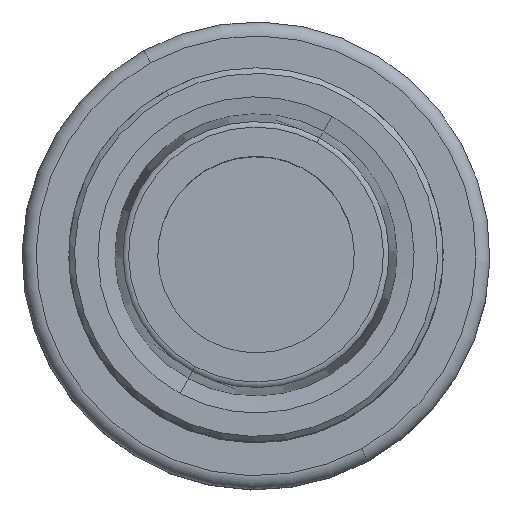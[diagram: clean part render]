
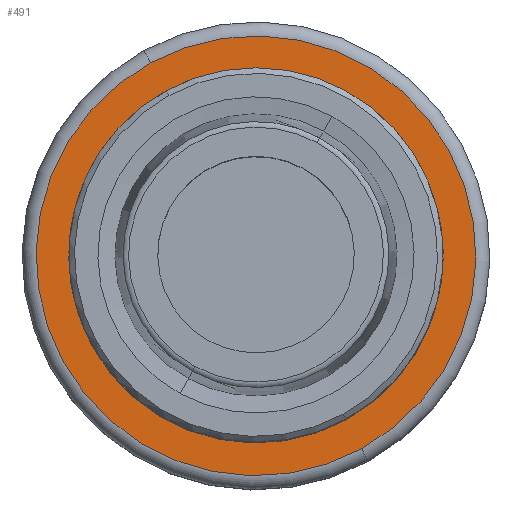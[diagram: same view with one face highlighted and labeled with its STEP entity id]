
A CAD part, top view. The second image highlights one B-rep face of the part: STEP entity #491.
In plain terms, the highlighted planar face has unit normal (0, 0, 1).
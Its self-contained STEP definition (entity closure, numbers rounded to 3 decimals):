
#397=AXIS2_PLACEMENT_3D('Circle Axis2P3D',#395,#396,$) ;
#409=AXIS2_PLACEMENT_3D('Circle Axis2P3D',#407,#408,$) ;
#467=AXIS2_PLACEMENT_3D('Plane Axis2P3D',#464,#465,#466) ;
#471=AXIS2_PLACEMENT_3D('Circle Axis2P3D',#469,#470,$) ;
#480=AXIS2_PLACEMENT_3D('Circle Axis2P3D',#478,#479,$) ;
#385=CARTESIAN_POINT('Vertex',(-9.589,17.552,-57.5)) ;
#392=CARTESIAN_POINT('Vertex',(9.589,-17.552,-57.5)) ;
#395=CARTESIAN_POINT('Axis2P3D Location',(0.,0.,-57.5)) ;
#407=CARTESIAN_POINT('Axis2P3D Location',(0.,0.,-57.5)) ;
#464=CARTESIAN_POINT('Axis2P3D Location',(0.,0.,-57.5)) ;
#469=CARTESIAN_POINT('Axis2P3D Location',(0.,0.,-57.5)) ;
#473=CARTESIAN_POINT('Vertex',(11.267,-20.623,-57.5)) ;
#475=CARTESIAN_POINT('Vertex',(-11.267,20.623,-57.5)) ;
#478=CARTESIAN_POINT('Axis2P3D Location',(0.,0.,-57.5)) ;
#396=DIRECTION('Axis2P3D Direction',(0.,0.,1.)) ;
#408=DIRECTION('Axis2P3D Direction',(0.,0.,1.)) ;
#465=DIRECTION('Axis2P3D Direction',(0.,0.,1.)) ;
#466=DIRECTION('Axis2P3D XDirection',(1.,0.,0.)) ;
#470=DIRECTION('Axis2P3D Direction',(0.,0.,1.)) ;
#479=DIRECTION('Axis2P3D Direction',(0.,0.,1.)) ;
#484=ORIENTED_EDGE('',*,*,#477,.T.) ;
#485=ORIENTED_EDGE('',*,*,#482,.T.) ;
#488=ORIENTED_EDGE('',*,*,#399,.F.) ;
#489=ORIENTED_EDGE('',*,*,#411,.F.) ;
#490=FACE_BOUND('',#487,.T.) ;
#491=ADVANCED_FACE('NOCUT',(#486,#490),#468,.T.) ;
#398=CIRCLE('generated circle',#397,20.) ;
#410=CIRCLE('generated circle',#409,20.) ;
#472=CIRCLE('generated circle',#471,23.5) ;
#481=CIRCLE('generated circle',#480,23.5) ;
#399=EDGE_CURVE('',#393,#386,#398,.T.) ;
#411=EDGE_CURVE('',#386,#393,#410,.T.) ;
#477=EDGE_CURVE('',#474,#476,#472,.T.) ;
#482=EDGE_CURVE('',#476,#474,#481,.T.) ;
#483=EDGE_LOOP('',(#484,#485)) ;
#487=EDGE_LOOP('',(#488,#489)) ;
#486=FACE_OUTER_BOUND('',#483,.T.) ;
#468=PLANE('',#467) ;
#386=VERTEX_POINT('',#385) ;
#393=VERTEX_POINT('',#392) ;
#474=VERTEX_POINT('',#473) ;
#476=VERTEX_POINT('',#475) ;
